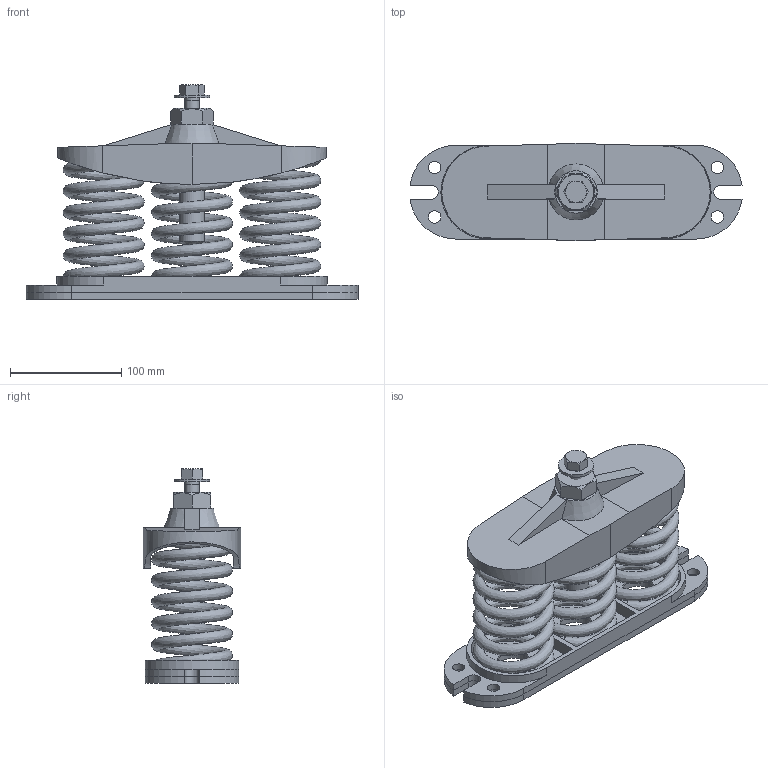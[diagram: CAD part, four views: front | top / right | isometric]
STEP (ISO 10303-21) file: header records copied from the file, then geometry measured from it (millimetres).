
FILE_DESCRIPTION(/* description */ (''),/* implementation_level */ '2;1');
FILE_NAME(/* name */ '\\Mleuckthor2\cad-proe_solids\WEBSITE FILES 05.22.13\STEP\SLFH3\SLFH-3-C2-5610.stp',/* time_stamp */ '2016-02-29T09:07:58-05:00',/* author */ ('rramoutar'),/* organization */ ('Mason Industries Inc.'),/* preprocessor_version */ 'ST-DEVELOPER v15.6',/* originating_system */ 'Autodesk Inventor 2015',/* authorisation */ '');
FILE_SCHEMA (('CONFIG_CONTROL_DESIGN'));
Length unit declared in the file: inch
Products named in the file (1): SLFH-3-C2-5610
Bounding box: 298.45 x 87.31 x 192.76 mm (x, y, z)
Volume: 823170 mm3; surface area: 331951.1 mm2
Topology: 9 solids, 9 shells, 171 faces, 421 edges, 276 vertices
Faces by surface type: plane 93, cylinder 54, cone 12, torus 9, bspline 3
Full cylindrical faces by diameter (mm): 10.592 x1, 11.112 x8, 12.7 x1, 13.487 x1, 19.05 x1, 19.177 x1, 22.225 x1, 28.575 x6, 31.75 x1
Entity records: 11683 total; most frequent: CARTESIAN_POINT 7503, DIRECTION 816, ORIENTED_EDGE 762, EDGE_CURVE 381, AXIS2_PLACEMENT_3D 312, VERTEX_POINT 264, EDGE_LOOP 239, LINE 192
